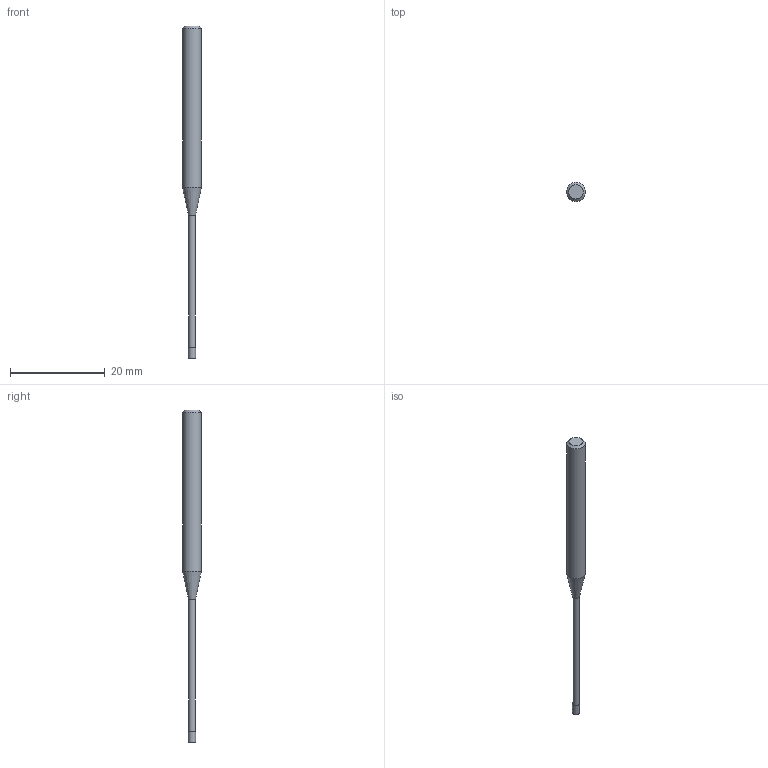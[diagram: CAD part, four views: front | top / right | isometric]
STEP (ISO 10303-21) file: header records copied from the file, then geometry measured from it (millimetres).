
FILE_DESCRIPTION((''),'2;1');
FILE_NAME('C:\Users\nsx150\AppData\Local\Temp\Mastercam 2021\17T8Q8S9EB\TEMP.step','2021-04-21T14:26:51',(''),(''),'STEP Write','Mastercam 2021 ... CNC Software, Inc.','');
FILE_SCHEMA(('AUTOMOTIVE_DESIGN'));
Length unit declared in the file: millimetre
Products named in the file (1): None
Bounding box: 4 x 4 x 70 mm (x, y, z)
Volume: 513.2 mm3; surface area: 630.5 mm2
Topology: 2 solids, 2 shells, 9 faces, 12 edges, 7 vertices
Faces by surface type: plane 4, cylinder 3, cone 2
Full cylindrical faces by diameter (mm): 1.45 x1, 1.5 x1, 4 x1
Entity records: 211 total; most frequent: DIRECTION 36, CARTESIAN_POINT 25, AXIS2_PLACEMENT_3D 18, ORIENTED_EDGE 14, EDGE_LOOP 14, STYLED_ITEM 12, ADVANCED_FACE 9, FACE_BOUND 8
